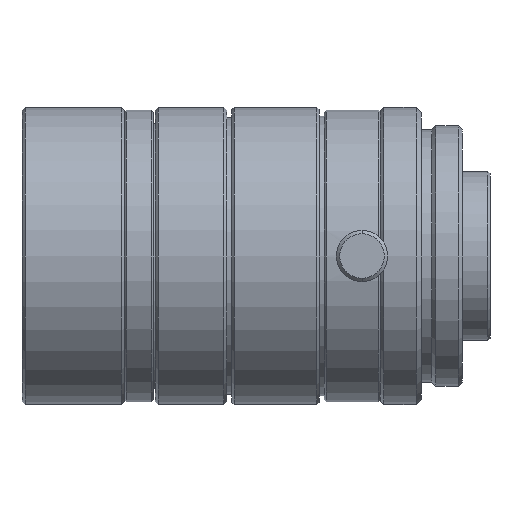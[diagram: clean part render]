
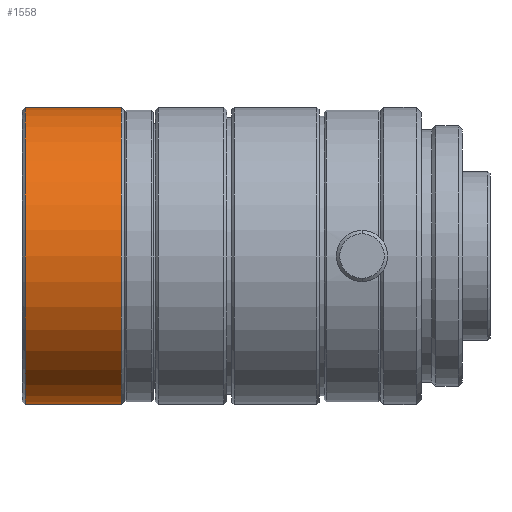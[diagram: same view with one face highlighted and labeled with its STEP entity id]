
A CAD part, front view. The second image highlights one B-rep face of the part: STEP entity #1558.
In plain terms, the highlighted cylindrical face has radius 14.5 mm (diameter 29 mm), a partial arc.
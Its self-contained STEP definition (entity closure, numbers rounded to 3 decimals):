
#472 = EDGE_LOOP ( 'NONE', ( #2034, #1598, #2509, #3502 ) ) ;
#610 = FACE_OUTER_BOUND ( 'NONE', #472, .T. ) ;
#625 = CARTESIAN_POINT ( 'NONE',  ( -46.8, 0., 14.5 ) ) ;
#658 = EDGE_CURVE ( 'NONE', #3341, #732, #1985, .T. ) ;
#679 = DIRECTION ( 'NONE',  ( 0., 0., -1. ) ) ;
#699 = AXIS2_PLACEMENT_3D ( 'NONE', #1469, #3657, #1789 ) ;
#732 = VERTEX_POINT ( 'NONE', #625 ) ;
#831 = EDGE_CURVE ( 'NONE', #2157, #4043, #1684, .T. ) ;
#1086 = DIRECTION ( 'NONE',  ( 1., 0., 0. ) ) ;
#1098 = CARTESIAN_POINT ( 'NONE',  ( 0., 0., 14.5 ) ) ;
#1191 = CIRCLE ( 'NONE', #1258, 14.5 ) ;
#1258 = AXIS2_PLACEMENT_3D ( 'NONE', #3267, #1394, #3581 ) ;
#1335 = CYLINDRICAL_SURFACE ( 'NONE', #2692, 14.5 ) ;
#1394 = DIRECTION ( 'NONE',  ( 1., 0., 0. ) ) ;
#1469 = CARTESIAN_POINT ( 'NONE',  ( -46.8, 0., 0. ) ) ;
#1558 = ADVANCED_FACE ( 'NONE', ( #610 ), #1335, .T. ) ;
#1598 = ORIENTED_EDGE ( 'NONE', *, *, #2130, .T. ) ;
#1684 = LINE ( 'NONE', #2560, #3880 ) ;
#1789 = DIRECTION ( 'NONE',  ( 0., 0., -1. ) ) ;
#1955 = CIRCLE ( 'NONE', #699, 14.5 ) ;
#1985 = LINE ( 'NONE', #1098, #3541 ) ;
#2025 = CARTESIAN_POINT ( 'NONE',  ( -56.2, 0., -14.5 ) ) ;
#2034 = ORIENTED_EDGE ( 'NONE', *, *, #658, .F. ) ;
#2130 = EDGE_CURVE ( 'NONE', #3341, #2157, #1191, .T. ) ;
#2157 = VERTEX_POINT ( 'NONE', #2025 ) ;
#2223 = DIRECTION ( 'NONE',  ( 1., 0., 0. ) ) ;
#2229 = DIRECTION ( 'NONE',  ( 1., 0., 0. ) ) ;
#2509 = ORIENTED_EDGE ( 'NONE', *, *, #831, .T. ) ;
#2560 = CARTESIAN_POINT ( 'NONE',  ( 0., 0., -14.5 ) ) ;
#2692 = AXIS2_PLACEMENT_3D ( 'NONE', #3482, #2223, #679 ) ;
#3011 = CARTESIAN_POINT ( 'NONE',  ( -46.8, 0., -14.5 ) ) ;
#3267 = CARTESIAN_POINT ( 'NONE',  ( -56.2, 0., 0. ) ) ;
#3341 = VERTEX_POINT ( 'NONE', #3376 ) ;
#3376 = CARTESIAN_POINT ( 'NONE',  ( -56.2, 0., 14.5 ) ) ;
#3482 = CARTESIAN_POINT ( 'NONE',  ( 0., 0., 0. ) ) ;
#3502 = ORIENTED_EDGE ( 'NONE', *, *, #3741, .F. ) ;
#3541 = VECTOR ( 'NONE', #1086, 1000. ) ;
#3581 = DIRECTION ( 'NONE',  ( 0., 0., -1. ) ) ;
#3657 = DIRECTION ( 'NONE',  ( 1., 0., 0. ) ) ;
#3741 = EDGE_CURVE ( 'NONE', #732, #4043, #1955, .T. ) ;
#3880 = VECTOR ( 'NONE', #2229, 1000. ) ;
#4043 = VERTEX_POINT ( 'NONE', #3011 ) ;
